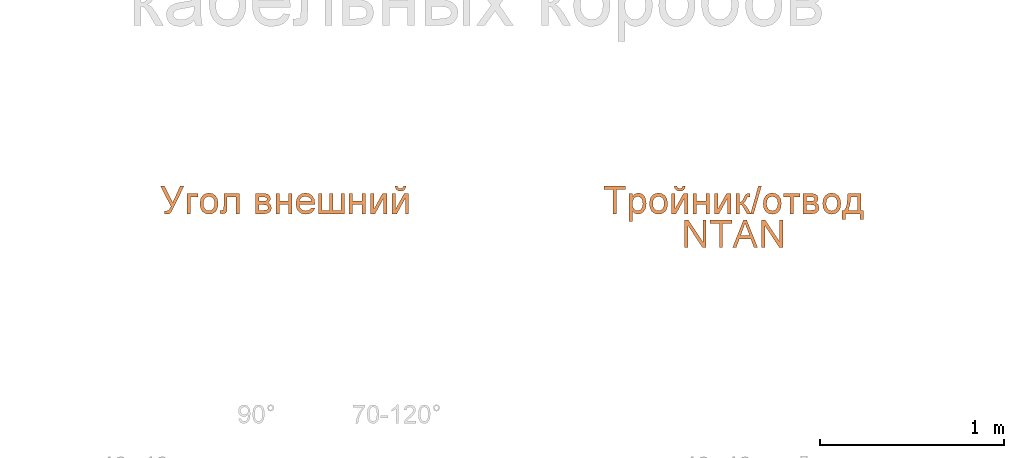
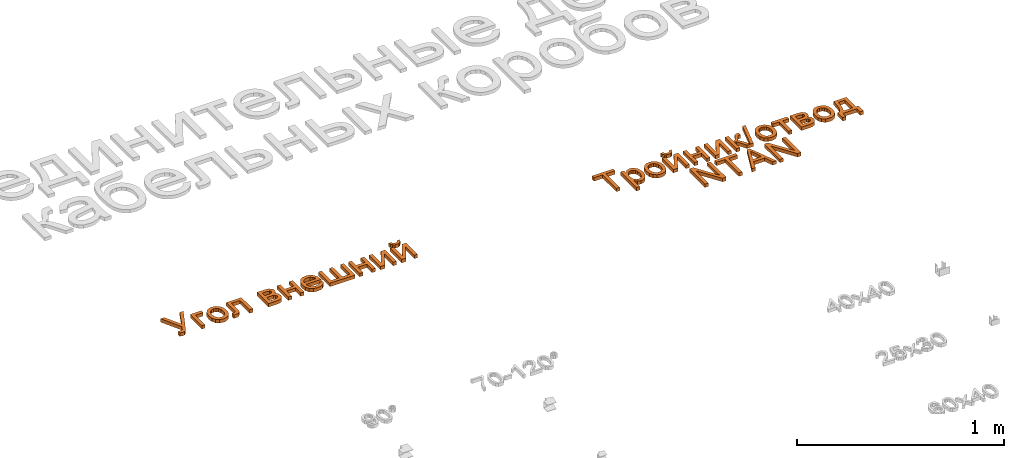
# One storey, part 30 of 71: 2 proxies.
"""IFC2X3 building model written with IfcOpenShell, lengths in millimetres."""

import ifcopenshell
import ifcopenshell.guid

model = None  # the IFC model being written
_history = None  # IfcOwnerHistory: only IFC2X3 demands one
_inside = {}  # id of a spatial element -> (the spatial element, [elements in it])
_under = {}  # id of a project, library or spatial element -> (it, [spatial elements below it])
_declared = {}  # id of a project -> (the project, [libraries it declares])
_typed = {}  # id of a type object -> (the type object, [elements of that type])
_made_of = {}  # id of a material, layer set ... -> (it, [elements and type objects made of it])


def new_model(schema):
    """Start an empty IFC model of exactly this schema.

    Asked for "IFC4X3", IfcOpenShell would pick the latest addendum, in which some entities
    have other attributes; the version numbers below select the first issue.
    IFC2X3 requires an IfcOwnerHistory on every rooted entity: one is made here for all.
    """
    global model, _history
    if schema == "IFC4X3":
        model = ifcopenshell.file(schema_version=(4, 3, 0, 0))
    else:
        model = ifcopenshell.file(schema=schema)
    _inside.clear()
    _under.clear()
    _declared.clear()
    _typed.clear()
    _made_of.clear()
    _history = None
    if model.schema == "IFC2X3":
        org = make("IfcOrganization", Name="unknown")
        user = make(
            "IfcPersonAndOrganization",
            ThePerson=make("IfcPerson", FamilyName="unknown"),
            TheOrganization=org,
        )
        app = make(
            "IfcApplication",
            ApplicationDeveloper=org,
            Version="unknown",
            ApplicationFullName="unknown",
            ApplicationIdentifier="unknown",
        )
        _history = make(
            "IfcOwnerHistory",
            OwningUser=user,
            OwningApplication=app,
            ChangeAction="ADDED",
            CreationDate=0,
        )
    return model


def make(cls, **values):
    """One entity of the class cls with the attributes given. An attribute that is None is left unset."""
    return model.create_entity(
        cls, **{name: value for name, value in values.items() if value is not None}
    )


def entity(cls, *values):
    """Any entity or typed value of the class cls, its attributes in the order of the schema. None: left unset."""
    e = model.create_entity(cls)
    for i, value in enumerate(values):
        if value is not None:
            e[i] = value
    return e


def rooted(cls, **values):
    """An entity with a GlobalId (a new one), such as an element, a storey or a relation."""
    return make(cls, GlobalId=ifcopenshell.guid.new(), OwnerHistory=_history, **values)


def si_unit(unit_type, name, prefix=None):
    """IfcSIUnit, for example si_unit("LENGTHUNIT", "METRE", prefix="MILLI")."""
    return make("IfcSIUnit", UnitType=unit_type, Prefix=prefix, Name=name)


def converted_unit(unit_type, name, factor, base, dimensions=None, offset=None):
    """IfcConversionBasedUnit, such as the inch: factor (a typed value) times the base unit."""
    return make(
        "IfcConversionBasedUnit"
        if offset is None
        else "IfcConversionBasedUnitWithOffset",
        ConversionOffset=offset,
        Dimensions=None
        if dimensions is None
        else entity("IfcDimensionalExponents", *dimensions),
        UnitType=unit_type,
        Name=name,
        ConversionFactor=make(
            "IfcMeasureWithUnit", ValueComponent=factor, UnitComponent=base
        ),
    )


def derived_unit(unit_type, elements):
    """IfcDerivedUnit: a product of units, each with its exponent."""
    return make(
        "IfcDerivedUnit",
        Elements=[
            make("IfcDerivedUnitElement", Unit=unit, Exponent=power)
            for unit, power in elements
        ],
        UnitType=unit_type,
    )


def assignment(units):
    """IfcUnitAssignment: the units of a project."""
    return None if units is None else make("IfcUnitAssignment", Units=units)


def point(xyz):
    """IfcCartesianPoint."""
    return None if xyz is None else make("IfcCartesianPoint", Coordinates=xyz)


def direction(xyz):
    """IfcDirection."""
    return None if xyz is None else make("IfcDirection", DirectionRatios=xyz)


def frame(location, z_axis=None, x_axis=None):
    """IfcAxis2Placement3D, a coordinate frame: its origin and axes. An axis left out is left unset."""
    return make(
        "IfcAxis2Placement3D",
        Location=point(location),
        Axis=direction(z_axis),
        RefDirection=direction(x_axis),
    )


def origin():
    """The frame at (0, 0, 0) with its axes left unset."""
    return frame((0.0, 0.0, 0.0))


def place(relative_to, where):
    """IfcLocalPlacement: puts the frame where relative to a parent placement (None: the world)."""
    return make(
        "IfcLocalPlacement", PlacementRelTo=relative_to, RelativePlacement=where
    )


def context(
    kind, dimensions, precision=None, world=None, true_north=None, identifier=None
):
    """IfcGeometricRepresentationContext, for example the 3D "Model" context."""
    return make(
        "IfcGeometricRepresentationContext",
        ContextIdentifier=identifier,
        ContextType=kind,
        CoordinateSpaceDimension=dimensions,
        Precision=precision,
        WorldCoordinateSystem=world,
        TrueNorth=true_north,
    )


def subcontext(parent, identifier, kind, view, scale=None):
    """IfcGeometricRepresentationSubContext, for example "Body" below "Model"."""
    return make(
        "IfcGeometricRepresentationSubContext",
        ContextIdentifier=identifier,
        ContextType=kind,
        ParentContext=parent,
        TargetScale=scale,
        TargetView=view,
    )


def project(units=None, contexts=None):
    """IfcProject with its units and contexts."""
    return rooted(
        "IfcProject",
        Name="project",
        RepresentationContexts=contexts,
        UnitsInContext=assignment(units),
    )


def spatial(cls, under=None, at=None, **own):
    """A site, building, storey or space (cls), placed at a placement, below another one or the project."""
    s = rooted(cls, ObjectPlacement=at, **own)
    if under is not None:
        _under.setdefault(under.id(), (under, []))[1].append(s)
    return s


def polyline(points):
    """IfcPolyline through the points."""
    return make("IfcPolyline", Points=[point(p) for p in points])


def outline(outer, holes=None, kind="AREA"):
    """IfcArbitraryClosedProfileDef: a profile drawn as a closed curve; with holes, ...WithVoids."""
    if holes is None:
        return make("IfcArbitraryClosedProfileDef", ProfileType=kind, OuterCurve=outer)
    return make(
        "IfcArbitraryProfileDefWithVoids",
        ProfileType=kind,
        OuterCurve=outer,
        InnerCurves=holes,
    )


def extrude(swept, where, along, depth):
    """IfcExtrudedAreaSolid: the profile swept, set in the frame where, extruded along a direction by depth."""
    return make(
        "IfcExtrudedAreaSolid",
        SweptArea=swept,
        Position=where,
        ExtrudedDirection=direction(along),
        Depth=depth,
    )


def shape(context_of_items, identifier, shape_type, items):
    """IfcShapeRepresentation: the items that make up one representation, for example the "Body"."""
    return make(
        "IfcShapeRepresentation",
        ContextOfItems=context_of_items,
        RepresentationIdentifier=identifier,
        RepresentationType=shape_type,
        Items=items,
    )


def made_of(thing, what):
    """Note that an element or type object is made of a material, layer set ...; save() writes the relation."""
    if what is not None:
        _made_of.setdefault(what.id(), (what, []))[1].append(thing)
    return thing


def element(
    cls,
    number,
    at=None,
    inside=None,
    cuts=None,
    type_object=None,
    material=None,
    context=None,
    identifier="Body",
    shape_type=None,
    held_by="IfcProductDefinitionShape",
    body=None,
    shapes=None,
    **own,
):
    """One element of the class cls, such as IfcWall. Its Tag is "e" and its number.

    at: its placement. inside: the storey or other place that contains it. cuts: it is an
    opening in that element (IfcRelVoidsElement). A single representation is given by context,
    identifier, shape_type and body (its items); several are given by shapes. held_by: the class
    of the entity that holds the representations. save() writes the other relations.
    """
    e = rooted(cls, Tag="e%d" % number, ObjectPlacement=at, **own)
    if body is not None:
        shapes = [shape(context, identifier, shape_type, body)]
    if shapes is not None:
        e.Representation = make(held_by, Representations=shapes)
    if inside is not None:
        _inside.setdefault(inside.id(), (inside, []))[1].append(e)
    if cuts is not None:
        rooted(
            "IfcRelVoidsElement", RelatingBuildingElement=cuts, RelatedOpeningElement=e
        )
    if type_object is not None:
        _typed.setdefault(type_object.id(), (type_object, []))[1].append(e)
    return made_of(e, material)


def aggregate(whole, parts):
    """IfcRelAggregates: a whole, such as a stair, and the parts it consists of."""
    return rooted("IfcRelAggregates", RelatingObject=whole, RelatedObjects=parts)


def save(model, path):
    """Write the relations noted so far, then the file.

    IfcRelAggregates (storeys below a building ...), IfcRelContainedInSpatialStructure (elements
    in a storey), IfcRelDefinesByType, IfcRelAssociatesMaterial and IfcRelDeclares: one each for
    every whole, place, type object, material and project.
    """
    for whole, parts in _under.values():
        aggregate(whole, parts)
    for where, things in _inside.values():
        rooted(
            "IfcRelContainedInSpatialStructure",
            RelatedElements=things,
            RelatingStructure=where,
        )
    for kind, things in _typed.values():
        rooted("IfcRelDefinesByType", RelatedObjects=things, RelatingType=kind)
    for what, things in _made_of.values():
        rooted("IfcRelAssociatesMaterial", RelatedObjects=things, RelatingMaterial=what)
    for by, libraries in _declared.values():
        rooted("IfcRelDeclares", RelatingContext=by, RelatedDefinitions=libraries)
    model.write(path)


model = new_model("IFC2X3")

# Units and contexts
model_context = context("Model", 3, precision=0.01, world=origin(), true_north=direction((6.12303176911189e-17, 1.0)))
body_context = subcontext(model_context, "Body", "Model", "MODEL_VIEW")
ifc_project = project(units=[si_unit("LENGTHUNIT", "METRE", prefix="MILLI"), si_unit("AREAUNIT", "SQUARE_METRE"), si_unit("VOLUMEUNIT", "CUBIC_METRE"), converted_unit("PLANEANGLEUNIT", "DEGREE", entity("IfcRatioMeasure", 0.0174532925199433), si_unit("PLANEANGLEUNIT", "RADIAN"), dimensions=[0, 0, 0, 0, 0, 0, 0]), si_unit("MASSUNIT", "GRAM", prefix="KILO"), derived_unit("MASSDENSITYUNIT", [(si_unit("MASSUNIT", "GRAM", prefix="KILO"), 1), (si_unit("LENGTHUNIT", "METRE"), -3)]), si_unit("TIMEUNIT", "SECOND"), si_unit("FREQUENCYUNIT", "HERTZ"), si_unit("THERMODYNAMICTEMPERATUREUNIT", "DEGREE_CELSIUS"), derived_unit("THERMALTRANSMITTANCEUNIT", [(si_unit("MASSUNIT", "GRAM", prefix="KILO"), 1), (si_unit("THERMODYNAMICTEMPERATUREUNIT", "KELVIN"), -1), (si_unit("TIMEUNIT", "SECOND"), -3)]), derived_unit("VOLUMETRICFLOWRATEUNIT", [(si_unit("LENGTHUNIT", "METRE"), 3), (si_unit("TIMEUNIT", "SECOND"), -1)]), si_unit("ELECTRICCURRENTUNIT", "AMPERE"), si_unit("ELECTRICVOLTAGEUNIT", "VOLT"), si_unit("POWERUNIT", "WATT"), si_unit("FORCEUNIT", "NEWTON", prefix="KILO"), si_unit("ILLUMINANCEUNIT", "LUX"), si_unit("LUMINOUSFLUXUNIT", "LUMEN"), si_unit("LUMINOUSINTENSITYUNIT", "CANDELA"), derived_unit("USERDEFINED", [(si_unit("MASSUNIT", "GRAM", prefix="KILO"), -1), (si_unit("LENGTHUNIT", "METRE"), -2), (si_unit("TIMEUNIT", "SECOND"), 3), (si_unit("LUMINOUSFLUXUNIT", "LUMEN"), 1)]), derived_unit("LINEARVELOCITYUNIT", [(si_unit("LENGTHUNIT", "METRE"), 1), (si_unit("TIMEUNIT", "SECOND"), -1)]), si_unit("PRESSUREUNIT", "PASCAL"), derived_unit("USERDEFINED", [(si_unit("LENGTHUNIT", "METRE"), -2), (si_unit("MASSUNIT", "GRAM", prefix="KILO"), 1), (si_unit("TIMEUNIT", "SECOND"), -2)])], contexts=[model_context])

# Site, building, storey
site_placement = place(None, origin())
site = spatial("IfcSite", under=ifc_project, at=site_placement, Name="Default", CompositionType="ELEMENT")
building_placement = place(site_placement, origin())
building = spatial("IfcBuilding", under=site, at=building_placement, Name="Наименование здания", CompositionType="ELEMENT")
storey_placement = place(building_placement, origin())
storey = spatial("IfcBuildingStorey", under=building, at=storey_placement, Name="Этаж 01", CompositionType="ELEMENT", Elevation=0.0)

# Proxies
proxy_1_placement = place(storey_placement, origin())
element("IfcBuildingElementProxy", 1, at=proxy_1_placement, inside=storey, Name="Текст модели:150 мм Arial", ObjectType="Текст модели:150 мм Arial", context=body_context, shape_type="SweptSolid", body=[
    extrude(outline(polyline([(-106.70112323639, 2.54904117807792), (-97.2962411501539, -16.0692907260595), (2.6844533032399, -16.0537927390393), (-58.6980742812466, -92.4799756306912), (-49.3761276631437, -110.934124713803), (29.6124181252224, -6.94385161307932), (48.3399438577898, 19.9502964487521), (49.5661580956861, 28.8436959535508), (46.5690129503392, 38.5506036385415), (36.8208226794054, 52.6266857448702), (22.1100419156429, 45.1956678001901), (28.7946406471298, 31.9625324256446), (30.0108133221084, 20.2534710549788), (17.5632614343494, 2.54904117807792), (-106.70112323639, 2.54904117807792)])), frame((18434.7369222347, 4510.19222980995, 0.0), z_axis=(0.0, 0.0, -1.0), x_axis=(0.450880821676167, -0.892584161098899, 0.0)), (0.0, 0.0, -1.0), 20.0),
    extrude(outline(polyline([(-43.1648207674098, -26.6837073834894), (67.4940833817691, -26.6837073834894), (67.4940833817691, -7.84814923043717), (-24.3292626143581, -7.84814923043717), (-24.3292626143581, 34.5318566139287), (-43.1648207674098, 34.5318566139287), (-43.1648207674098, -26.6837073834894)])), frame((18553.4798142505, 4521.09226675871, 0.0), z_axis=(0.0, 0.0, 1.0), x_axis=(0.0, -1.0, 0.0)), (0.0, 0.0, 1.0), 20.0),
    extrude(outline(polyline([(-11.1946000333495, -52.2426443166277), (13.7256178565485, -52.2426443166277), (33.0962748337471, -44.575958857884), (46.3022849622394, -30.4665992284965), (52.7285623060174, -11.1385767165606), (52.8795704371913, 2.26160042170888), (49.5396030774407, 15.0586597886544), (42.9102470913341, 26.3612191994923), (33.1930893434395, 35.2778964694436), (19.4724914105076, 41.8007990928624), (0.832814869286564, 45.9220345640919), (-22.8762356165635, 45.7172545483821), (-41.8930612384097, 37.8901775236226), (-55.1425891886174, 23.7682718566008), (-61.5497466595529, 4.67900591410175), (-60.9951142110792, -13.6515433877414), (-53.9645370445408, -29.8701936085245), (-37.0646721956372, -44.5487589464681), (-11.1946000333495, -52.2426443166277)]), holes=[polyline([(-8.64857835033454, -33.5799173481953), (-25.2263685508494, -29.0848574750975), (-36.3325046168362, -20.9461821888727), (-42.1575488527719, -10.2052592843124), (-42.8920635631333, 2.09654344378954), (-38.8516378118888, 13.6120893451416), (-30.3014219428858, 22.3586496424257), (-17.5331679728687, 27.2345846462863), (-0.838627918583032, 27.1382546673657), (16.1172354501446, 22.590864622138), (27.4101305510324, 14.4263394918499), (33.3060231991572, 3.69417972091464), (34.0708792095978, -8.5561142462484), (30.0134303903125, -20.1946478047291), (21.4625840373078, -28.9457632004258), (8.53602088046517, -33.75800489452), (-8.64857835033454, -33.5799173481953)])]), frame((18650.7135803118, 4505.00151704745, 0.0), z_axis=(0.0, 0.0, 1.0), x_axis=(0.137105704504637, -0.990556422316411, 0.0)), (0.0, 0.0, 1.0), 20.0),
    extrude(outline(polyline([(-74.0534959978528, 18.8171640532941), (-74.0534959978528, -65.9428476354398), (36.495043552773, -65.9428476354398), (36.495043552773, -47.1072894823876), (-55.2179378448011, -47.1072894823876), (-55.2179378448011, -0.0183940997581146), (-2.42687153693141, -0.0183940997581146), (21.9269165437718, 1.25079878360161), (32.2092183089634, 8.2221625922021), (36.6054081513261, 24.7032759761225), (35.6489149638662, 40.007166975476), (17.7698499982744, 40.007166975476), (17.7698499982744, 31.5826692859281), (16.6110217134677, 23.0662010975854), (12.9322017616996, 19.6632926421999), (-3.49372932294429, 18.8171640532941), (-74.0534959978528, 18.8171640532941)])), frame((18745.7410762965, 4490.20359152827, 0.0), z_axis=(0.0, 0.0, -1.0), x_axis=(0.0, -1.0, 0.0)), (0.0, 0.0, -1.0), 20.0),
    extrude(outline(polyline([(-56.9428773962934, -61.1019147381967), (53.7160267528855, -61.1019147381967), (53.7160267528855, -13.2404671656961), (51.7202669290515, 3.22225211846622), (45.7329874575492, 15.2335992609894), (35.6254296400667, 22.8211654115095), (21.2688347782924, 26.012541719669), (3.51852851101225, 20.9725583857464), (-6.69019685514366, 8.31741775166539), (-16.0160054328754, 18.0662906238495), (-29.0942103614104, 21.3036521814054), (-45.1890476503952, 15.950969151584), (-54.4228857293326, 3.1486757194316), (-56.9428773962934, -19.6048256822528), (-56.9428773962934, -61.1019147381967)]), holes=[polyline([(-14.562871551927, -42.2663565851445), (-38.1073192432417, -42.2663565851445), (-38.1073192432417, -23.0629164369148), (-35.4953570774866, -3.30765329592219), (-31.8809164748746, 1.02415719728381), (-26.2615189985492, 2.4680940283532), (-19.3453374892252, -0.82444982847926), (-15.5193647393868, -8.29245433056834), (-14.562871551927, -23.6515276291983), (-14.562871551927, -42.2663565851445)]), polyline([(34.8804685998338, -42.2663565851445), (4.27268660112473, -42.2663565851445), (4.27268660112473, -21.0027772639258), (5.37633258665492, -4.4296933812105), (10.6554392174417, 3.95801610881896), (19.7237303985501, 7.1769835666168), (26.8376484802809, 5.56749983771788), (31.4775601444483, 1.32765984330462), (34.8804685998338, -19.1633672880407), (34.8804685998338, -42.2663565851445)])]), frame((18959.900295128, 4507.31421012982, 0.0), z_axis=(0.0, 0.0, 1.0), x_axis=(0.0, -1.0, 0.0)), (0.0, 0.0, 1.0), 20.0),
    extrude(outline(polyline([(-54.1522296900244, -43.5572282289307), (56.5066744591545, -43.5572282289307), (56.5066744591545, -24.7216700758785), (7.06333430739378, -24.7216700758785), (7.06333430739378, 24.7216700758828), (56.5066744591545, 24.7216700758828), (56.5066744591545, 43.5572282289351), (-54.1522296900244, 43.5572282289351), (-54.1522296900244, 24.7216700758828), (-11.7722238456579, 24.7216700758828), (-11.7722238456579, -24.7216700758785), (-54.1522296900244, -24.7216700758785), (-54.1522296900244, -43.5572282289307)])), frame((19053.0145127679, 4510.10485783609, 0.0), z_axis=(0.0, 0.0, 1.0), x_axis=(0.0, -1.0, 0.0)), (0.0, 0.0, 1.0), 20.0),
    extrude(outline(polyline([(-12.1519235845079, -30.5627594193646), (-23.3028322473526, -45.4710024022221), (-8.67600558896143, -50.3662606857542), (6.18277634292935, -49.9698260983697), (20.8164252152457, -44.1721168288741), (34.7678526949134, -32.8635510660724), (47.4570640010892, -14.3885693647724), (51.2430729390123, 5.61202992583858), (45.9060763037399, 25.8663302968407), (31.2262708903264, 45.1024152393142), (10.9154740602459, 59.6770093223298), (-9.99269287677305, 64.6676720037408), (-29.946389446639, 60.6331852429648), (-47.3937751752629, 48.1323309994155), (-58.8653278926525, 30.7635073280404), (-61.9660241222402, 11.0147969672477), (-56.156056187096, -9.52443743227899), (-40.8956164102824, -29.2648332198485), (-37.1706876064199, -32.7160206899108), (21.6964908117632, 28.1133970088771), (29.5607979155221, 15.9656989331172), (31.7422008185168, 3.31507577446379), (28.7208128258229, -8.97205129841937), (20.9767472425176, -20.0292611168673), (5.30526907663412, -30.5627594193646), (-12.1519235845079, -30.5627594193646)]), holes=[polyline([(8.16121838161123, 41.2120477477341), (-37.6840592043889, -6.1614057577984), (-43.0633748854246, 2.58957596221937), (-44.7058228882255, 11.128642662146), (-41.8277013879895, 23.6248066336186), (-33.8073361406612, 35.0865524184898), (-23.7122716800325, 42.9855035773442), (-12.6145549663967, 46.8552978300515), (-1.6210902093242, 46.3720932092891), (8.16121838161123, 41.2120477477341)])]), frame((19171.8878539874, 4499.08200961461, 0.0), z_axis=(0.0, 0.0, -1.0), x_axis=(-0.695421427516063, -0.718602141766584, 0.0)), (0.0, 0.0, -1.0), 20.0),
    extrude(outline(polyline([(-49.0509326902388, -70.6333430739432), (61.6079714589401, -70.6333430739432), (61.6079714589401, 70.6333430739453), (-49.0509326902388, 70.6333430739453), (-49.0509326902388, 51.7977849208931), (42.7724133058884, 51.7977849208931), (42.7724133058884, 9.4177790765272), (-49.0509326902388, 9.4177790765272), (-49.0509326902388, -9.41777907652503), (42.7724133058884, -9.41777907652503), (42.7724133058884, -51.7977849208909), (-49.0509326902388, -51.7977849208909), (-49.0509326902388, -70.6333430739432)])), frame((19310.8262149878, 4515.20615483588, 0.0), z_axis=(0.0, 0.0, 1.0), x_axis=(0.0, -1.0, 0.0)), (0.0, 0.0, 1.0), 20.0),
    extrude(outline(polyline([(-54.1522296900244, -43.5572282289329), (56.5066744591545, -43.5572282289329), (56.5066744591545, -24.7216700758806), (7.06333430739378, -24.7216700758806), (7.06333430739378, 24.7216700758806), (56.5066744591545, 24.7216700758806), (56.5066744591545, 43.5572282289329), (-54.1522296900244, 43.5572282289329), (-54.1522296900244, 24.7216700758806), (-11.7722238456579, 24.7216700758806), (-11.7722238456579, -24.7216700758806), (-54.1522296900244, -24.7216700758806), (-54.1522296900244, -43.5572282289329)])), frame((19450.9156787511, 4510.10485783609, 0.0), z_axis=(0.0, 0.0, 1.0), x_axis=(0.0, -1.0, 0.0)), (0.0, 0.0, 1.0), 20.0),
    extrude(outline(polyline([(-55.3809555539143, -44.7638811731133), (55.2779485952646, -44.7638811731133), (55.2779485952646, -20.1157874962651), (-28.5991463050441, 25.8694619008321), (55.2779485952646, 25.8694619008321), (55.2779485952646, 44.7050200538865), (-55.3809555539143, 44.7050200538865), (-55.3809555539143, 20.3512319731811), (29.0111741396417, -25.9283230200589), (-55.3809555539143, -25.9283230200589), (-55.3809555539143, -44.7638811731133)])), frame((19567.4901253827, 4508.8761319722, 0.0), z_axis=(0.0, 0.0, 1.0), x_axis=(0.0, -1.0, 0.0)), (0.0, 0.0, 1.0), 20.0),
    extrude(outline(polyline([(-18.9086812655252, -8.80638330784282), (-25.1654169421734, -21.4719280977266), (-13.0047964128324, -24.0889504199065), (-2.33253524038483, -22.5548007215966), (6.51477397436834, -17.0109446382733), (13.200538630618, -7.59884780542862), (17.0548336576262, 4.29420862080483), (16.4301190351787, 15.3019521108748), (11.3772556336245, 25.1120324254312), (1.94710432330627, 33.4120993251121), (-4.30963135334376, 20.7465545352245), (2.8597429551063, 11.2962766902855), (1.28449863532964, 0.17511459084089), (-6.94780563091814, -8.80638330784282), (-18.9086812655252, -8.80638330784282)])), frame((19685.3938084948, 4591.23006402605, 0.0), z_axis=(0.0, 0.0, -1.0), x_axis=(-0.442902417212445, -0.896569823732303, 0.0)), (0.0, 0.0, -1.0), 20.0),
    extrude(outline(polyline([(-55.3809555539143, -44.7638811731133), (55.2779485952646, -44.7638811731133), (55.2779485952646, -20.1157874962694), (-28.5991463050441, 25.8694619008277), (55.2779485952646, 25.8694619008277), (55.2779485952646, 44.7050200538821), (-55.3809555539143, 44.7050200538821), (-55.3809555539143, 20.3512319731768), (29.0111741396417, -25.9283230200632), (-55.3809555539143, -25.9283230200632), (-55.3809555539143, -44.7638811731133)])), frame((19685.2123638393, 4508.8761319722, 0.0), z_axis=(0.0, 0.0, 1.0), x_axis=(0.0, -1.0, 0.0)), (0.0, 0.0, 1.0), 20.0),
])
proxy_2_placement = place(storey_placement, origin())
element("IfcBuildingElementProxy", 2, at=proxy_2_placement, inside=storey, Name="Текст модели:150 мм Arial", ObjectType="Текст модели:150 мм Arial", context=body_context, shape_type="SweptSolid", body=[
    extrude(outline(polyline([(-9.4177790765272, -103.595569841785), (9.41777907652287, -103.595569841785), (9.41777907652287, 28.2533372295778), (58.8611192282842, 28.2533372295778), (58.8611192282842, 47.0888953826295), (-58.8611192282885, 47.0888953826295), (-58.8611192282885, 28.2533372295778), (-9.4177790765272, 28.2533372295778), (-9.4177790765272, -103.595569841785)])), frame((20846.2988332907, 4557.19375321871, 0.0)), (0.0, 0.0, 1.0), 20.0),
    extrude(outline(polyline([(-51.3898957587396, -92.5503727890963), (-32.5543376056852, -92.5503727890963), (-32.5543376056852, -35.4550871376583), (-20.6165668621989, -47.6871634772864), (-4.22742397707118, -52.5248117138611), (7.98165973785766, -50.7175914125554), (19.592935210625, -45.2959305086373), (29.5625372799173, -36.4851567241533), (36.8466007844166, -24.5105977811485), (41.3025714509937, -10.1034191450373), (42.7878950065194, 6.00521371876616), (37.527182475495, 35.0311031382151), (30.9972770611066, 46.7849328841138), (21.9289858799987, 55.5589184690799), (10.7913584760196, 61.0219660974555), (-1.94655560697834, 62.8429819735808), (-19.531314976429, 57.6374517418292), (-32.5543376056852, 42.0208610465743), (-32.5543376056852, 60.488537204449), (-51.3898957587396, 60.488537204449), (-51.3898957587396, -92.5503727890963)]), holes=[polyline([(-32.5543376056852, 4.27616834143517), (-30.3792353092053, 21.3596884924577), (-23.853928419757, 33.8354866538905), (-14.5051272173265, 41.4644395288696), (-3.85954198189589, 44.0074238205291), (6.7446565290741, 41.61619085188), (15.7485683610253, 34.4424919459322), (21.9013947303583, 22.4679330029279), (23.9523368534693, 5.6741199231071), (21.8508109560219, -11.8462600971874), (15.5462332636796, -24.0875334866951), (6.29859960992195, -31.2888235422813), (-4.63209417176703, -33.6892535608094), (-15.3880440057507, -31.371596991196), (-24.4057514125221, -24.4186272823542), (-30.5171910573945, -12.6096152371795), (-32.5543376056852, 4.27616834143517)])]), frame((20975.3854064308, 4503.76855032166, 0.0)), (0.0, 0.0, 1.0), 20.0),
    extrude(outline(polyline([(-11.1946000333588, -52.2426443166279), (13.7256178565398, -52.2426443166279), (33.0962748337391, -44.5759588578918), (46.3022849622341, -30.4665992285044), (52.7285623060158, -11.1385767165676), (52.8795704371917, 2.26160042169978), (49.539603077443, 15.0586597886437), (42.9102470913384, 26.3612191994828), (33.1930893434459, 35.2778964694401), (19.4724914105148, 41.800799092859), (0.83281486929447, 45.9220345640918), (-22.8762356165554, 45.7172545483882), (-41.8930612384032, 37.8901775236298), (-55.1425891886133, 23.7682718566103), (-61.5497466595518, 4.6790059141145), (-60.9951142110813, -13.6515433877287), (-53.9645370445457, -29.870193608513), (-37.0646721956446, -44.5487589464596), (-11.1946000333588, -52.2426443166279)]), holes=[polyline([(-8.64857835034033, -33.5799173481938), (-25.2263685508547, -29.0848574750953), (-36.3325046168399, -20.9461821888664), (-42.1575488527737, -10.2052592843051), (-42.8920635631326, 2.09654344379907), (-38.8516378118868, 13.6120893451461), (-30.3014219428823, 22.3586496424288), (-17.5331679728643, 27.2345846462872), (-0.83862791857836, 27.1382546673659), (16.1172354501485, 22.5908646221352), (27.4101305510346, 14.426339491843), (33.3060231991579, 3.6941797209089), (34.0708792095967, -8.55611424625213), (30.013430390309, -20.1946478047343), (21.4625840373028, -28.9457632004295), (8.53602088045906, -33.7580048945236), (-8.64857835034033, -33.5799173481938)])]), frame((21087.938545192, 4505.00151704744, 0.0), z_axis=(0.0, 0.0, 1.0), x_axis=(0.137105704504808, -0.990556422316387, 0.0)), (0.0, 0.0, 1.0), 20.0),
    extrude(outline(polyline([(-18.9086812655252, -8.80638330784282), (-25.1654169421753, -21.4719280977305), (-13.0047964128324, -24.0889504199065), (-2.33253524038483, -22.5548007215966), (6.51477397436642, -17.0109446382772), (13.2005386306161, -7.5988478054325), (17.0548336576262, 4.29420862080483), (16.4301190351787, 15.3019521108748), (11.3772556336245, 25.1120324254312), (1.94710432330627, 33.4120993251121), (-4.30963135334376, 20.7465545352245), (2.8597429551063, 11.2962766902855), (1.28449863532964, 0.17511459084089), (-6.94780563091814, -8.80638330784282), (-18.9086812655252, -8.80638330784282)])), frame((21199.6764238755, 4591.23006402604, 0.0), z_axis=(0.0, 0.0, -1.0), x_axis=(-0.442902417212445, -0.896569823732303, 0.0)), (0.0, 0.0, -1.0), 20.0),
    extrude(outline(polyline([(-54.1522296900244, -43.5572282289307), (56.5066744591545, -43.5572282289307), (56.5066744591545, -24.7216700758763), (7.06333430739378, -24.7216700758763), (7.06333430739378, 24.7216700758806), (56.5066744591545, 24.7216700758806), (56.5066744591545, 43.5572282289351), (-54.1522296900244, 43.5572282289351), (-54.1522296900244, 24.7216700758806), (-11.7722238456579, 24.7216700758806), (-11.7722238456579, -24.7216700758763), (-54.1522296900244, -24.7216700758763), (-54.1522296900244, -43.5572282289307)])), frame((21316.0105647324, 4510.10485783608, 0.0), z_axis=(0.0, 0.0, 1.0), x_axis=(0.0, -1.0, 0.0)), (0.0, 0.0, 1.0), 20.0),
    extrude(outline(polyline([(-55.3809555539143, -44.7638811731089), (55.2779485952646, -44.7638811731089), (55.2779485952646, -20.1157874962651), (-28.5991463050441, 25.8694619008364), (55.2779485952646, 25.8694619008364), (55.2779485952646, 44.7050200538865), (-55.3809555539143, 44.7050200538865), (-55.3809555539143, 20.3512319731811), (29.0111741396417, -25.9283230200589), (-55.3809555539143, -25.9283230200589), (-55.3809555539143, -44.7638811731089)])), frame((21432.585011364, 4508.87613197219, 0.0), z_axis=(0.0, 0.0, 1.0), x_axis=(0.0, -1.0, 0.0)), (0.0, 0.0, 1.0), 20.0),
    extrude(outline(polyline([(4.45851081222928, -64.4154570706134), (40.5109463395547, -64.4154570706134), (82.8909521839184, 86.2690081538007), (65.8948040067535, 86.2690081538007), (24.2826640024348, -61.6852674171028), (5.70930959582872, -29.7241849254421), (-5.95254965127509, -14.2823381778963), (-17.8351380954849, -6.95228942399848), (-7.18495433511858, -0.385595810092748), (0.411808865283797, 13.0237029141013), (6.8865319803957, 25.4213261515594), (16.0835818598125, 27.4078889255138), (21.1603533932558, 27.2975243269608), (21.1603533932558, 46.2434470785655), (17.5551098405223, 46.2434470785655), (3.77792912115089, 44.8087072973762), (-3.80043997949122, 39.2720832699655), (-22.7279686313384, 2.5390660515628), (-35.3463210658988, -0.845448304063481), (-35.3463210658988, 46.2434470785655), (-54.1818792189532, 46.2434470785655), (-54.1818792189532, -64.4154570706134), (-35.3463210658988, -64.4154570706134), (-35.3463210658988, -12.6176721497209), (-25.2295661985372, -16.0941570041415), (-15.2967523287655, -30.4599489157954), (4.45851081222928, -64.4154570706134)])), frame((21559.7252478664, 4518.01364044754, 0.0)), (0.0, 0.0, 1.0), 20.0),
    extrude(outline(polyline([(-11.1946000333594, -52.2426443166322), (13.7256178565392, -52.2426443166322), (33.0962748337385, -44.5759588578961), (46.3022849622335, -30.4665992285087), (52.7285623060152, -11.1385767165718), (52.8795704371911, 2.26160042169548), (49.5396030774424, 15.0586597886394), (42.9102470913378, 26.3612191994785), (33.1930893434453, 35.2778964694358), (19.4724914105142, 41.8007990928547), (0.832814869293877, 45.9220345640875), (-22.876235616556, 45.7172545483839), (-41.8930612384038, 37.8901775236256), (-55.1425891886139, 23.768271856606), (-61.5497466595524, 4.67900591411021), (-60.9951142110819, -13.651543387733), (-53.9645370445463, -29.8701936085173), (-37.0646721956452, -44.5487589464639), (-11.1946000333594, -52.2426443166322)]), holes=[polyline([(-8.64857835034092, -33.5799173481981), (-25.2263685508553, -29.0848574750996), (-36.3325046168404, -20.9461821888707), (-42.1575488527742, -10.2052592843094), (-42.8920635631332, 2.09654344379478), (-38.8516378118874, 13.6120893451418), (-30.3014219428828, 22.3586496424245), (-17.5331679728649, 27.2345846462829), (-0.838627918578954, 27.1382546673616), (16.1172354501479, 22.5908646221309), (27.410130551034, 14.4263394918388), (33.3060231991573, 3.69417972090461), (34.0708792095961, -8.55611424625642), (30.0134303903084, -20.1946478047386), (21.4625840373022, -28.9457632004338), (8.53602088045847, -33.7580048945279), (-8.64857835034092, -33.5799173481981)])]), frame((21704.8030747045, 4505.00151704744, 0.0), z_axis=(0.0, 0.0, 1.0), x_axis=(0.137105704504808, -0.990556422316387, 0.0)), (0.0, 0.0, 1.0), 20.0),
    extrude(outline(polyline([(-37.0825051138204, -44.7344506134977), (-18.2469469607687, -44.7344506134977), (-18.2469469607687, -9.41777907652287), (73.5763990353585, -9.41777907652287), (73.5763990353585, 9.4177790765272), (-18.2469469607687, 9.4177790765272), (-18.2469469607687, 44.7344506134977), (-37.0825051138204, 44.7344506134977), (-37.0825051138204, -44.7344506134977)])), frame((21806.9122990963, 4527.17458241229, 0.0), z_axis=(0.0, 0.0, 1.0), x_axis=(0.0, -1.0, 0.0)), (0.0, 0.0, 1.0), 20.0),
    extrude(outline(polyline([(-56.9428773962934, -61.1019147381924), (53.7160267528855, -61.1019147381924), (53.7160267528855, -13.2404671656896), (51.7202669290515, 3.22225211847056), (45.7329874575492, 15.2335992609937), (35.6254296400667, 22.8211654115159), (21.2688347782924, 26.0125417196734), (3.51852851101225, 20.9725583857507), (-6.69019685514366, 8.31741775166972), (-16.0160054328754, 18.066290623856), (-29.0942103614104, 21.3036521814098), (-45.1890476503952, 15.9509691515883), (-54.4228857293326, 3.1486757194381), (-56.9428773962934, -19.6048256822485), (-56.9428773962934, -61.1019147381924)]), holes=[polyline([(-14.562871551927, -42.266356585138), (-38.1073192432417, -42.266356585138), (-38.1073192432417, -23.0629164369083), (-35.4953570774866, -3.30765329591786), (-31.8809164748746, 1.02415719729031), (-26.2615189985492, 2.4680940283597), (-19.3453374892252, -0.824449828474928), (-15.5193647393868, -8.29245433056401), (-14.562871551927, -23.651527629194), (-14.562871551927, -42.266356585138)]), polyline([(34.8804685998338, -42.266356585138), (4.27268660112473, -42.266356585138), (4.27268660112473, -21.0027772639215), (5.37633258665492, -4.429693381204), (10.6554392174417, 3.95801610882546), (19.7237303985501, 7.1769835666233), (26.8376484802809, 5.56749983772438), (31.4775601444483, 1.32765984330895), (34.8804685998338, -19.1633672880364), (34.8804685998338, -42.266356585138)])]), frame((21929.2297778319, 4507.31421012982, 0.0), z_axis=(0.0, 0.0, 1.0), x_axis=(0.0, -1.0, 0.0)), (0.0, 0.0, 1.0), 20.0),
    extrude(outline(polyline([(-55.3809555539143, -44.7638811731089), (55.2779485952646, -44.7638811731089), (55.2779485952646, -20.1157874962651), (-28.5991463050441, 25.8694619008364), (55.2779485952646, 25.8694619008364), (55.2779485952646, 44.7050200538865), (-55.3809555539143, 44.7050200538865), (-55.3809555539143, 20.3512319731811), (29.0111741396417, -25.9283230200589), (-55.3809555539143, -25.9283230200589), (-55.3809555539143, -44.7638811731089)])), frame((21199.49497922, 4508.87613197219, 0.0), z_axis=(0.0, 0.0, 1.0), x_axis=(0.0, -1.0, 0.0)), (0.0, 0.0, 1.0), 20.0),
    extrude(outline(polyline([(-11.1946000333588, -52.2426443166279), (13.7256178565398, -52.2426443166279), (33.0962748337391, -44.5759588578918), (46.3022849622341, -30.4665992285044), (52.7285623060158, -11.1385767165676), (52.8795704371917, 2.26160042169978), (49.539603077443, 15.0586597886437), (42.9102470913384, 26.3612191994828), (33.1930893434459, 35.2778964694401), (19.4724914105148, 41.800799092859), (0.83281486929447, 45.9220345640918), (-22.8762356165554, 45.7172545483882), (-41.8930612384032, 37.8901775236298), (-55.1425891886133, 23.7682718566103), (-61.5497466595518, 4.6790059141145), (-60.9951142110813, -13.6515433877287), (-53.9645370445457, -29.870193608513), (-37.0646721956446, -44.5487589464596), (-11.1946000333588, -52.2426443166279)]), holes=[polyline([(-8.64857835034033, -33.5799173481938), (-25.2263685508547, -29.0848574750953), (-36.3325046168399, -20.9461821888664), (-42.1575488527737, -10.2052592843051), (-42.8920635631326, 2.09654344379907), (-38.8516378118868, 13.6120893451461), (-30.3014219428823, 22.3586496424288), (-17.5331679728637, 27.2345846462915), (-0.83862791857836, 27.1382546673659), (16.1172354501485, 22.5908646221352), (27.4101305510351, 14.4263394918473), (33.3060231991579, 3.6941797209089), (34.0708792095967, -8.55611424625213), (30.013430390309, -20.1946478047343), (21.4625840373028, -28.9457632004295), (8.53602088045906, -33.7580048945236), (-8.64857835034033, -33.5799173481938)])]), frame((22027.3620080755, 4505.00151704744, 0.0), z_axis=(0.0, 0.0, 1.0), x_axis=(0.137105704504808, -0.990556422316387, 0.0)), (0.0, 0.0, 1.0), 20.0),
    extrude(outline(polyline([(-89.8120245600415, 30.1307985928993), (-95.2116329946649, -40.295853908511), (-3.65698474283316, -47.3153448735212), (-4.73690642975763, -61.4006753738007), (44.5617503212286, -65.180401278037), (46.0016459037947, -46.3999606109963), (15.4834298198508, -44.0601302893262), (21.4229990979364, 33.4091874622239), (51.9412151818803, 31.0693571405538), (53.3811107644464, 49.8497978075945), (4.08245401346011, 53.6295237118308), (3.18251927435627, 41.8917482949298), (-12.8912765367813, 34.5411547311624), (-33.7482991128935, 30.1307985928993), (-89.8120245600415, 30.1307985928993)]), holes=[polyline([(-72.2914925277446, 12.2580174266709), (-29.1661575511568, 13.3791398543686), (1.56263674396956, 20.7637525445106), (-2.21708916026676, -28.5349042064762), (-74.9912967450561, -22.9553088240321), (-72.2914925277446, 12.2580174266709)])]), frame((22133.8125684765, 4472.40450805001, 0.0), z_axis=(0.0, 0.0, -1.0), x_axis=(-0.0764456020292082, -0.997073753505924, 0.0)), (0.0, 0.0, -1.0), 20.0),
    extrude(outline(polyline([(-58.8611192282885, -75.3459114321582), (-40.0255610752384, -75.3459114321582), (-40.0255610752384, 44.0685842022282), (38.7011858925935, -75.3459114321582), (58.8611192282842, -75.3459114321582), (58.8611192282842, 75.3385537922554), (40.0255610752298, 75.3385537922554), (40.0255610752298, -44.0391536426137), (-38.7011858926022, 75.3385537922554), (-58.8611192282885, 75.3385537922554), (-58.8611192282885, -75.3459114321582)])), frame((21284.2255603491, 4345.98186804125, 0.0)), (0.0, 0.0, 1.0), 20.0),
    extrude(outline(polyline([(-9.41777907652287, -103.595569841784), (9.4177790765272, -103.595569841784), (9.4177790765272, 28.2533372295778), (58.8611192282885, 28.2533372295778), (58.8611192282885, 47.0888953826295), (-58.8611192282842, 47.0888953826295), (-58.8611192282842, 28.2533372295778), (-9.41777907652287, 28.2533372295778), (-9.41777907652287, -103.595569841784)])), frame((21423.1378017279, 4374.23152645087, 0.0)), (0.0, 0.0, 1.0), 20.0),
    extrude(outline(polyline([(-68.1639351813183, -49.4433401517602), (-48.2615192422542, -49.4433401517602), (-31.0446418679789, -2.35444476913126), (31.0170507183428, -2.35444476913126), (48.2707162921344, -49.4433401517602), (68.1731322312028, -49.4433401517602), (8.02442601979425, 101.241125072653), (-8.01522896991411, 101.241125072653), (-68.1639351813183, -49.4433401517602)]), holes=[polyline([(-24.1284603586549, 16.4811133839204), (-9.37639235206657, 56.7641918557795), (0.00459852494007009, 82.4055669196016), (10.5628117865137, 53.5268302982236), (24.1376574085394, 16.4811133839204), (-24.1284603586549, 16.4811133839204)])]), frame((21553.8048878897, 4320.07929676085, 0.0)), (0.0, 0.0, 1.0), 20.0),
    extrude(outline(polyline([(-58.8611192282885, -75.3459114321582), (-40.0255610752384, -75.3459114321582), (-40.0255610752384, 44.0685842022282), (38.7011858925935, -75.3459114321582), (58.8611192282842, -75.3459114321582), (58.8611192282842, 75.3385537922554), (40.0255610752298, 75.3385537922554), (40.0255610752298, -44.0391536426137), (-38.7011858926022, 75.3385537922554), (-58.8611192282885, 75.3385537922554), (-58.8611192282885, -75.3459114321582)])), frame((21700.9622844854, 4345.98186804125, 0.0)), (0.0, 0.0, 1.0), 20.0),
])

save(model, "model.ifc")
